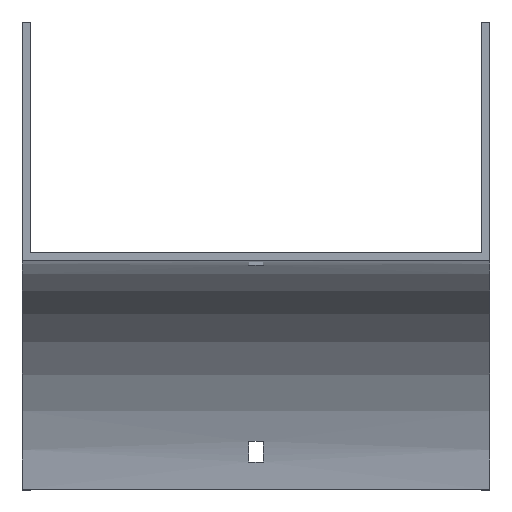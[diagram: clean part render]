
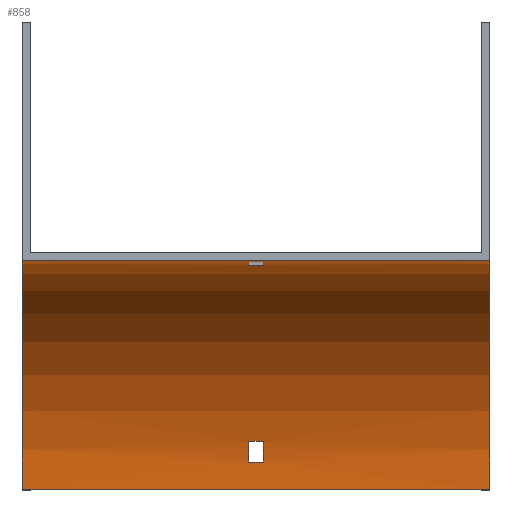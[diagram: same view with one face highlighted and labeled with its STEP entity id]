
A CAD part, top view. The second image highlights one B-rep face of the part: STEP entity #858.
In plain terms, the highlighted cylindrical face has radius 100 mm (diameter 200 mm), a partial arc.
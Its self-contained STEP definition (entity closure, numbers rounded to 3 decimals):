
#1 = VECTOR ( 'NONE', #1343, 1000. ) ;
#10 = DIRECTION ( 'NONE',  ( -1., 0., 0. ) ) ;
#127 = DIRECTION ( 'NONE',  ( 0., 0., -1. ) ) ;
#142 = CARTESIAN_POINT ( 'NONE',  ( 102., 0., 0. ) ) ;
#147 = CARTESIAN_POINT ( 'NONE',  ( -3.25, -100., 0. ) ) ;
#149 = CARTESIAN_POINT ( 'NONE',  ( 102., 0., 0. ) ) ;
#156 = DIRECTION ( 'NONE',  ( 0., 1., 0. ) ) ;
#186 = DIRECTION ( 'NONE',  ( -1., 0., 0. ) ) ;
#191 = VECTOR ( 'NONE', #732, 1000. ) ;
#206 = LINE ( 'NONE', #1114, #298 ) ;
#208 = ORIENTED_EDGE ( 'NONE', *, *, #897, .F. ) ;
#212 = CARTESIAN_POINT ( 'NONE',  ( 102., -100., -100. ) ) ;
#227 = LINE ( 'NONE', #1374, #704 ) ;
#238 = EDGE_LOOP ( 'NONE', ( #340, #492, #984, #438 ) ) ;
#240 = EDGE_CURVE ( 'NONE', #382, #1379, #227, .T. ) ;
#242 = CARTESIAN_POINT ( 'NONE',  ( -3.25, -2.23, -21. ) ) ;
#263 = ORIENTED_EDGE ( 'NONE', *, *, #1440, .T. ) ;
#280 = CYLINDRICAL_SURFACE ( 'NONE', #767, 100. ) ;
#296 = VERTEX_POINT ( 'NONE', #149 ) ;
#298 = VECTOR ( 'NONE', #1131, 1000. ) ;
#300 = CARTESIAN_POINT ( 'NONE',  ( 3.25, -79., -97.77 ) ) ;
#308 = DIRECTION ( 'NONE',  ( 0., 0., 1. ) ) ;
#340 = ORIENTED_EDGE ( 'NONE', *, *, #901, .F. ) ;
#351 = VERTEX_POINT ( 'NONE', #300 ) ;
#361 = ORIENTED_EDGE ( 'NONE', *, *, #674, .T. ) ;
#375 = VERTEX_POINT ( 'NONE', #1191 ) ;
#382 = VERTEX_POINT ( 'NONE', #1096 ) ;
#390 = ORIENTED_EDGE ( 'NONE', *, *, #532, .F. ) ;
#394 = VERTEX_POINT ( 'NONE', #398 ) ;
#398 = CARTESIAN_POINT ( 'NONE',  ( -102., -100., -100. ) ) ;
#407 = DIRECTION ( 'NONE',  ( -1., 0., 0. ) ) ;
#438 = ORIENTED_EDGE ( 'NONE', *, *, #1549, .F. ) ;
#443 = CIRCLE ( 'NONE', #641, 100. ) ;
#458 = EDGE_LOOP ( 'NONE', ( #263, #361, #1246, #765 ) ) ;
#484 = EDGE_LOOP ( 'NONE', ( #1064, #390, #208, #520 ) ) ;
#487 = CARTESIAN_POINT ( 'NONE',  ( 102., -100., -100. ) ) ;
#492 = ORIENTED_EDGE ( 'NONE', *, *, #920, .F. ) ;
#493 = CIRCLE ( 'NONE', #1446, 100. ) ;
#520 = ORIENTED_EDGE ( 'NONE', *, *, #1643, .T. ) ;
#527 = CARTESIAN_POINT ( 'NONE',  ( 3.25, -2.23, -21. ) ) ;
#532 = EDGE_CURVE ( 'NONE', #562, #394, #862, .T. ) ;
#541 = FACE_OUTER_BOUND ( 'NONE', #484, .T. ) ;
#562 = VERTEX_POINT ( 'NONE', #487 ) ;
#570 = VERTEX_POINT ( 'NONE', #242 ) ;
#577 = FACE_BOUND ( 'NONE', #458, .T. ) ;
#597 = VERTEX_POINT ( 'NONE', #527 ) ;
#599 = DIRECTION ( 'NONE',  ( 0., 0., 1. ) ) ;
#606 = AXIS2_PLACEMENT_3D ( 'NONE', #1104, #976, #1493 ) ;
#641 = AXIS2_PLACEMENT_3D ( 'NONE', #1037, #764, #127 ) ;
#655 = CIRCLE ( 'NONE', #606, 100. ) ;
#662 = DIRECTION ( 'NONE',  ( -1., 0., 0. ) ) ;
#674 = EDGE_CURVE ( 'NONE', #570, #382, #1257, .T. ) ;
#704 = VECTOR ( 'NONE', #725, 1000. ) ;
#711 = AXIS2_PLACEMENT_3D ( 'NONE', #859, #1620, #599 ) ;
#722 = CARTESIAN_POINT ( 'NONE',  ( -3.25, -88., -99.277 ) ) ;
#725 = DIRECTION ( 'NONE',  ( 1., 0., 0. ) ) ;
#732 = DIRECTION ( 'NONE',  ( -1., 0., 0. ) ) ;
#758 = CARTESIAN_POINT ( 'NONE',  ( -3.25, -79., -97.77 ) ) ;
#764 = DIRECTION ( 'NONE',  ( -1., 0., 0. ) ) ;
#765 = ORIENTED_EDGE ( 'NONE', *, *, #1443, .T. ) ;
#767 = AXIS2_PLACEMENT_3D ( 'NONE', #805, #186, #308 ) ;
#805 = CARTESIAN_POINT ( 'NONE',  ( 102., -100., 0. ) ) ;
#829 = CARTESIAN_POINT ( 'NONE',  ( 3.25, -100., 0. ) ) ;
#840 = EDGE_CURVE ( 'NONE', #375, #394, #1263, .T. ) ;
#858 = ADVANCED_FACE ( 'NONE', ( #541, #577, #1068 ), #280, .F. ) ;
#859 = CARTESIAN_POINT ( 'NONE',  ( -3.25, -100., 0. ) ) ;
#862 = LINE ( 'NONE', #212, #191 ) ;
#897 = EDGE_CURVE ( 'NONE', #296, #562, #655, .T. ) ;
#901 = EDGE_CURVE ( 'NONE', #1504, #1311, #493, .T. ) ;
#920 = EDGE_CURVE ( 'NONE', #351, #1504, #206, .T. ) ;
#973 = AXIS2_PLACEMENT_3D ( 'NONE', #829, #1462, #1336 ) ;
#976 = DIRECTION ( 'NONE',  ( -1., 0., 0. ) ) ;
#984 = ORIENTED_EDGE ( 'NONE', *, *, #1198, .F. ) ;
#1037 = CARTESIAN_POINT ( 'NONE',  ( 3.25, -100., 0. ) ) ;
#1064 = ORIENTED_EDGE ( 'NONE', *, *, #840, .T. ) ;
#1068 = FACE_BOUND ( 'NONE', #238, .T. ) ;
#1096 = CARTESIAN_POINT ( 'NONE',  ( -3.25, -0.723, -12. ) ) ;
#1104 = CARTESIAN_POINT ( 'NONE',  ( 102., -100., 0. ) ) ;
#1114 = CARTESIAN_POINT ( 'NONE',  ( 102., -79., -97.77 ) ) ;
#1131 = DIRECTION ( 'NONE',  ( -1., 0., 0. ) ) ;
#1191 = CARTESIAN_POINT ( 'NONE',  ( -102., 0., 0. ) ) ;
#1198 = EDGE_CURVE ( 'NONE', #1314, #351, #1458, .T. ) ;
#1207 = CARTESIAN_POINT ( 'NONE',  ( -102., -100., 0. ) ) ;
#1210 = LINE ( 'NONE', #1574, #1 ) ;
#1218 = DIRECTION ( 'NONE',  ( 0., 0., 1. ) ) ;
#1246 = ORIENTED_EDGE ( 'NONE', *, *, #240, .T. ) ;
#1257 = CIRCLE ( 'NONE', #711, 100. ) ;
#1263 = CIRCLE ( 'NONE', #1638, 100. ) ;
#1311 = VERTEX_POINT ( 'NONE', #722 ) ;
#1314 = VERTEX_POINT ( 'NONE', #1509 ) ;
#1336 = DIRECTION ( 'NONE',  ( 0., -1., 0. ) ) ;
#1343 = DIRECTION ( 'NONE',  ( 1., 0., 0. ) ) ;
#1374 = CARTESIAN_POINT ( 'NONE',  ( 102., -0.723, -12. ) ) ;
#1379 = VERTEX_POINT ( 'NONE', #1650 ) ;
#1380 = VECTOR ( 'NONE', #1677, 1000. ) ;
#1440 = EDGE_CURVE ( 'NONE', #597, #570, #1538, .T. ) ;
#1443 = EDGE_CURVE ( 'NONE', #1379, #597, #443, .T. ) ;
#1446 = AXIS2_PLACEMENT_3D ( 'NONE', #147, #407, #156 ) ;
#1458 = CIRCLE ( 'NONE', #973, 100. ) ;
#1462 = DIRECTION ( 'NONE',  ( 1., 0., 0. ) ) ;
#1493 = DIRECTION ( 'NONE',  ( 0., 0., 1. ) ) ;
#1504 = VERTEX_POINT ( 'NONE', #758 ) ;
#1509 = CARTESIAN_POINT ( 'NONE',  ( 3.25, -88., -99.277 ) ) ;
#1516 = VECTOR ( 'NONE', #662, 1000. ) ;
#1538 = LINE ( 'NONE', #1671, #1380 ) ;
#1549 = EDGE_CURVE ( 'NONE', #1311, #1314, #1210, .T. ) ;
#1565 = LINE ( 'NONE', #142, #1516 ) ;
#1574 = CARTESIAN_POINT ( 'NONE',  ( 102., -88., -99.277 ) ) ;
#1620 = DIRECTION ( 'NONE',  ( 1., 0., 0. ) ) ;
#1638 = AXIS2_PLACEMENT_3D ( 'NONE', #1207, #10, #1218 ) ;
#1643 = EDGE_CURVE ( 'NONE', #296, #375, #1565, .T. ) ;
#1650 = CARTESIAN_POINT ( 'NONE',  ( 3.25, -0.723, -12. ) ) ;
#1671 = CARTESIAN_POINT ( 'NONE',  ( 102., -2.23, -21. ) ) ;
#1677 = DIRECTION ( 'NONE',  ( -1., 0., 0. ) ) ;
